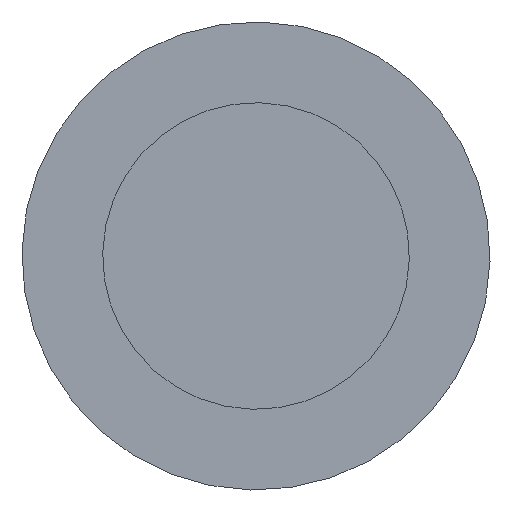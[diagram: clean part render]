
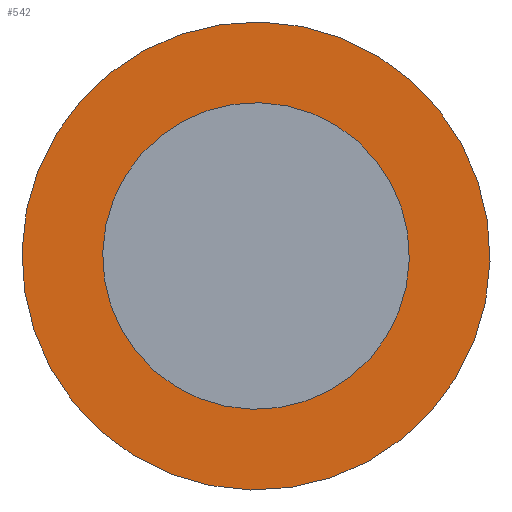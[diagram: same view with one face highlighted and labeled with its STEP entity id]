
A CAD part, front view. The second image highlights one B-rep face of the part: STEP entity #542.
In plain terms, the highlighted planar face has unit normal (0, -1, 0).
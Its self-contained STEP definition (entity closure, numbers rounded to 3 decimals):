
#53 = EDGE_LOOP ( 'NONE', ( #615, #1151 ) ) ;
#78 = AXIS2_PLACEMENT_3D ( 'NONE', #708, #1168, #358 ) ;
#79 = CARTESIAN_POINT ( 'NONE',  ( 0., -432.24, -4.5 ) ) ;
#141 = VERTEX_POINT ( 'NONE', #610 ) ;
#169 = FACE_OUTER_BOUND ( 'NONE', #1496, .T. ) ;
#171 = EDGE_CURVE ( 'NONE', #331, #765, #751, .T. ) ;
#250 = AXIS2_PLACEMENT_3D ( 'NONE', #636, #1354, #1434 ) ;
#279 = VERTEX_POINT ( 'NONE', #981 ) ;
#324 = CIRCLE ( 'NONE', #999, 20. ) ;
#331 = VERTEX_POINT ( 'NONE', #746 ) ;
#332 = CARTESIAN_POINT ( 'NONE',  ( 0., -432.24, -4.5 ) ) ;
#358 = DIRECTION ( 'NONE',  ( -0.624, 0., 0.781 ) ) ;
#374 = EDGE_CURVE ( 'NONE', #765, #331, #324, .T. ) ;
#524 = DIRECTION ( 'NONE',  ( 0., -1., 0. ) ) ;
#542 = ADVANCED_FACE ( 'NONE', ( #764, #169 ), #1345, .T. ) ;
#610 = CARTESIAN_POINT ( 'NONE',  ( -8.18, -432.24, 5.732 ) ) ;
#615 = ORIENTED_EDGE ( 'NONE', *, *, #1367, .F. ) ;
#636 = CARTESIAN_POINT ( 'NONE',  ( 0., -432.24, -4.5 ) ) ;
#649 = CIRCLE ( 'NONE', #1196, 13.1 ) ;
#671 = ORIENTED_EDGE ( 'NONE', *, *, #374, .F. ) ;
#708 = CARTESIAN_POINT ( 'NONE',  ( 0., -432.24, -4.5 ) ) ;
#731 = DIRECTION ( 'NONE',  ( 0.624, 0., -0.781 ) ) ;
#746 = CARTESIAN_POINT ( 'NONE',  ( -12.489, -432.24, 11.121 ) ) ;
#751 = CIRCLE ( 'NONE', #78, 20. ) ;
#764 = FACE_BOUND ( 'NONE', #53, .T. ) ;
#765 = VERTEX_POINT ( 'NONE', #1478 ) ;
#788 = AXIS2_PLACEMENT_3D ( 'NONE', #856, #1100, #731 ) ;
#856 = CARTESIAN_POINT ( 'NONE',  ( 0., -432.24, -4.5 ) ) ;
#874 = ORIENTED_EDGE ( 'NONE', *, *, #171, .F. ) ;
#981 = CARTESIAN_POINT ( 'NONE',  ( 8.18, -432.24, -14.732 ) ) ;
#999 = AXIS2_PLACEMENT_3D ( 'NONE', #332, #1153, #1032 ) ;
#1001 = DIRECTION ( 'NONE',  ( 0.624, 0., -0.781 ) ) ;
#1032 = DIRECTION ( 'NONE',  ( -0.624, 0., 0.781 ) ) ;
#1100 = DIRECTION ( 'NONE',  ( 0., -1., 0. ) ) ;
#1151 = ORIENTED_EDGE ( 'NONE', *, *, #1161, .F. ) ;
#1153 = DIRECTION ( 'NONE',  ( 0., 1., 0. ) ) ;
#1161 = EDGE_CURVE ( 'NONE', #141, #279, #1255, .T. ) ;
#1168 = DIRECTION ( 'NONE',  ( 0., 1., 0. ) ) ;
#1196 = AXIS2_PLACEMENT_3D ( 'NONE', #79, #524, #1001 ) ;
#1255 = CIRCLE ( 'NONE', #788, 13.1 ) ;
#1345 = PLANE ( 'NONE',  #250 ) ;
#1354 = DIRECTION ( 'NONE',  ( 0., -1., 0. ) ) ;
#1367 = EDGE_CURVE ( 'NONE', #279, #141, #649, .T. ) ;
#1434 = DIRECTION ( 'NONE',  ( -1., 0., 0. ) ) ;
#1478 = CARTESIAN_POINT ( 'NONE',  ( 12.489, -432.24, -20.121 ) ) ;
#1496 = EDGE_LOOP ( 'NONE', ( #874, #671 ) ) ;
